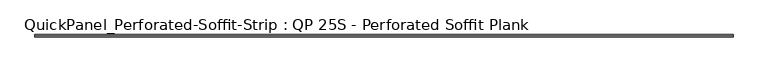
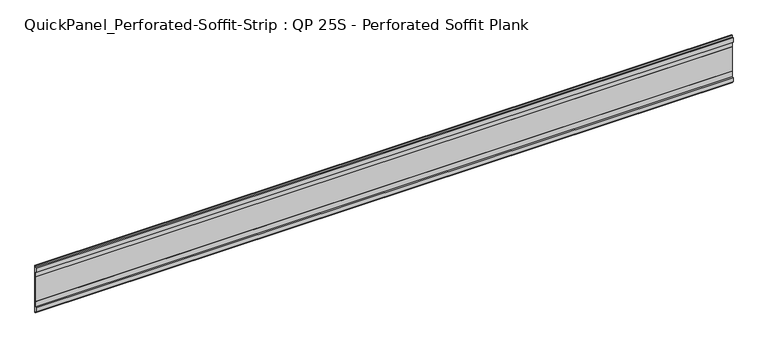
"""IFC4 building model written with IfcOpenShell, lengths in millimetres: plate geometry, QuickPanel_Perforated-Soffit-Strip : QP 25S - Perforated Soffit Plank."""

from ifc_helpers import new_model, si_unit, frame, origin, place, context, project, spatial, polyline, outline, extrude, source, transform, mapped, element, save


def quickpanel_perforated_soffit_strip_qp_25s_perforated_soffit_2bb89925(model_context):
    return source(origin(), model_context, "Body", "SweptSolid", [
        extrude(outline(polyline([(1.2999974, 0.0), (0.0, 0.0), (0.0, 3.2260821), (-2.7005026, 3.2260821), (-2.7005026, 10.95756), (0.0, 10.95756), (0.0, 20.8066818), (1.2999974, 20.8066818), (1.2999974, 0.0)])), frame((-609.6, 0.0, 0.0), z_axis=(1.0, 0.0, 0.0), x_axis=(0.0, 1.0, 0.0)), (0.0, 0.0, 1.0), 1219.2),
        extrude(outline(polyline([(0.0, 87.3125), (1.2999974, 87.3125), (1.2999974, 66.5058182), (0.0, 66.5058182), (0.0, 76.35494), (-2.7005026, 76.35494), (-2.7005026, 84.0864179), (0.0, 84.0864179), (0.0, 87.3125)])), frame((-609.6, 0.0, 0.0), z_axis=(1.0, 0.0, 0.0), x_axis=(0.0, 1.0, 0.0)), (0.0, 0.0, 1.0), 1219.2),
        extrude(outline(polyline([(-609.6, 0.0), (-609.6, 1.2999974), (609.6, 1.2999974), (609.6, 0.0), (-609.6, 0.0)])), frame((0.0, 0.0, 20.8066818), z_axis=(0.0, 0.0, 1.0), x_axis=(1.0, 0.0, 0.0)), (0.0, 0.0, 1.0), 45.6991364),
    ])


if __name__ == "__main__":
    model = new_model("IFC4")
    model_context = context("Model", 3, world=origin())
    ifc_project = project(units=[si_unit("LENGTHUNIT", "METRE", prefix="MILLI")], contexts=[model_context])
    site = spatial("IfcSite", under=ifc_project)
    building = spatial("IfcBuilding", under=site)
    placement = place(None, origin())
    quickpanel_perforated_soffit_strip_qp_25s_perforated_soffit_shape = quickpanel_perforated_soffit_strip_qp_25s_perforated_soffit_2bb89925(model_context)
    element("IfcPlate", 1, ObjectType="QuickPanel_Perforated-Soffit-Strip : QP 25S - Perforated Soffit Plank", at=placement, inside=building, context=model_context, shape_type="MappedRepresentation", body=[
        mapped(quickpanel_perforated_soffit_strip_qp_25s_perforated_soffit_shape, transform((0.0, 0.0, 0.0), x_axis=(1.0, 0.0, 0.0), y_axis=(0.0, 1.0, 0.0), z_axis=(0.0, 0.0, 1.0))),
    ])
    save(model, "model.ifc")
